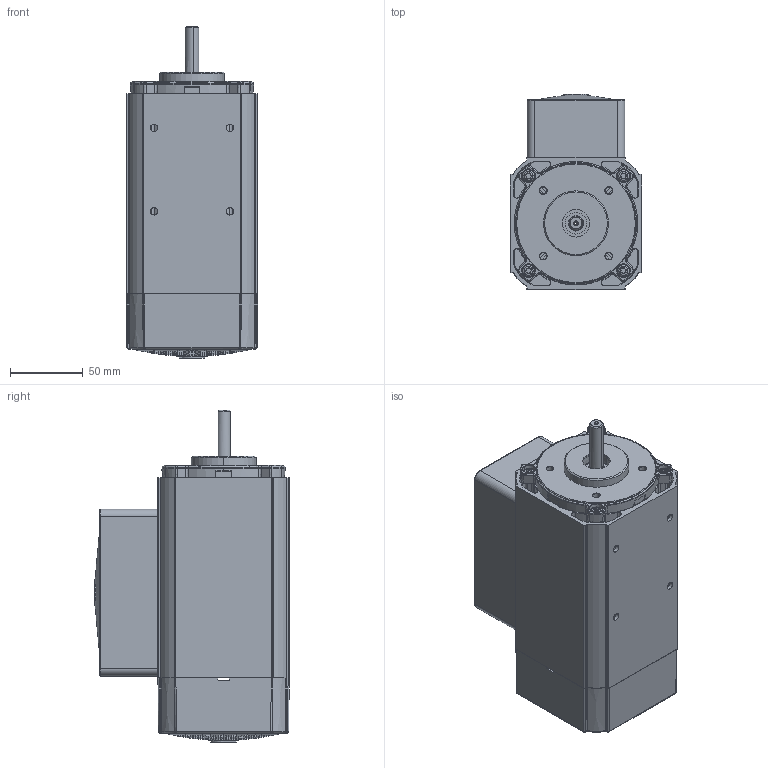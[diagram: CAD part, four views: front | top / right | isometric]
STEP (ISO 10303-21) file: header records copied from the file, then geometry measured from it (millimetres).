
FILE_DESCRIPTION (( 'STEP AP203' ), '1' );
FILE_NAME ('OUTLINE AC8060FC.STEP', '2006-09-21T13:53:59', ( 'Groschopp' ), ( 'Groschopp' ), 'SwSTEP 2.0', 'SolidWorks 2007', '' );
FILE_SCHEMA (( 'CONFIG_CONTROL_DESIGN' ));
Length unit declared in the file: inch
Products named in the file (1): OUTLINE AC8060FC
Bounding box: 90.25 x 133.49 x 227.44 mm (x, y, z)
Surface area: 186178.1 mm2 (no closed solid volume)
Topology: 0 solids, 30 shells, 1025 faces, 3317 edges, 2236 vertices
Faces by surface type: plane 599, cylinder 223, bspline 78, cone 61, torus 54, sphere 10
Entity records: 39567 total; most frequent: CARTESIAN_POINT 10639, DIRECTION 6361, ORIENTED_EDGE 5524, EDGE_CURVE 3301, AXIS2_PLACEMENT_3D 2496, VERTEX_POINT 2236, CIRCLE 1548, VECTOR 1369
